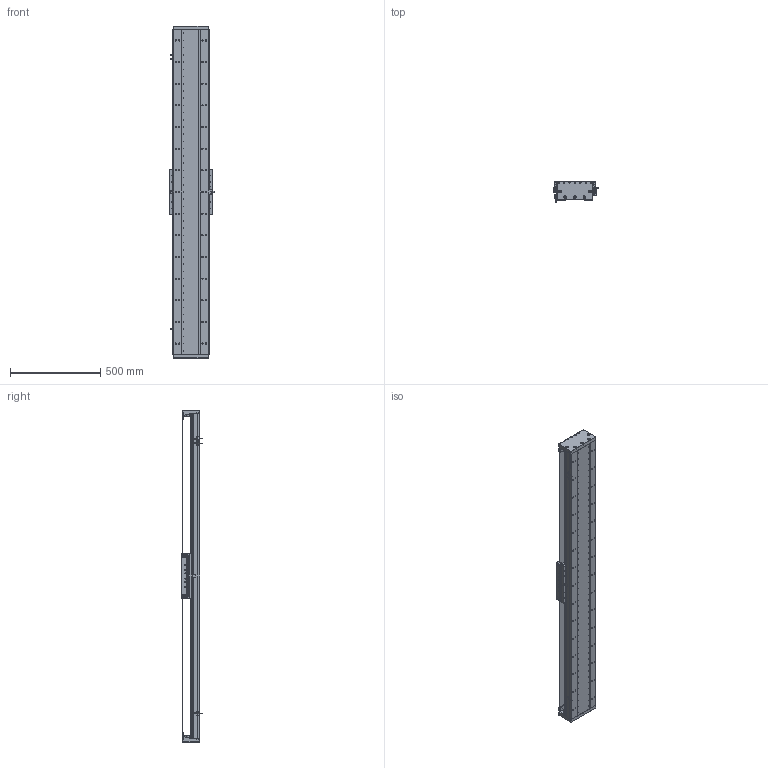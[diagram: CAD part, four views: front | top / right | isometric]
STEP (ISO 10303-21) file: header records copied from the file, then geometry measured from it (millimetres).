
FILE_DESCRIPTION (( 'STEP AP203' ), '1' );
FILE_NAME ('DA-C195-C3-T1500-C010-0.2 眻盄萇儂.STEP', '2025-08-15T01:38:06', ( '' ), ( '' ), 'SwSTEP 2.0', 'SolidWorks 2019', '' );
FILE_SCHEMA (( 'CONFIG_CONTROL_DESIGN' ));
Length unit declared in the file: millimetre
Products named in the file (15): PM-T45ㄗ侂狟ㄘ; 葩璃 DA95-GT-T-00; IU-CU195-L 菁釱絳寢; LMT黍杅芛; DA-C195-C3-T1500-C010-0.2 眻盄萇儂; DA95-HXJ-00 遣喳砎蝶; DA195詩湍嶺輸; DA195詩湍郪璃; DA195詩湍裔啣; DA165-GYP-00 光电感应片(默认); DA195詩湍菜輸; DA-C195-GD-DB-H-00 傷啣; IU-CU195-L-00 菁釱(L1800); CU195-C3賑輸-俋楷; MS200 棠掑喜S315-T240
Assembly tree (29 placements, depth 3):
  DA-C195-C3-T1500-C010-0.2 眻盄萇儂
    DA195詩湍郪璃
      DA195詩湍菜輸  x2
      DA195詩湍裔啣
      DA195詩湍嶺輸  x2
      DA95-HXJ-00 遣喳砎蝶  x8
      DA-C195-GD-DB-H-00 傷啣  x2
    IU-CU195-L 菁釱絳寢
      IU-CU195-L-00 菁釱(L1800)
      葩璃 DA95-GT-T-00  x4
    LMT黍杅芛
    MS200 棠掑喜S315-T240
    PM-T45ㄗ侂狟ㄘ  x3
    DA165-GYP-00 光电感应片(默认)
    CU195-C3賑輸-俋楷
Bounding box: 248 x 115.45 x 1840 mm (x, y, z)
Volume: 11505602.3 mm3; surface area: 3316474.7 mm2
Topology: 86 solids, 118 shells, 3994 faces, 10887 edges, 6817 vertices
Faces by surface type: cylinder 2042, plane 1350, cone 514, torus 52, sphere 36
Entity records: 121879 total; most frequent: CARTESIAN_POINT 30736, ORIENTED_EDGE 18690, DIRECTION 18582, EDGE_CURVE 9345, AXIS2_PLACEMENT_3D 6961, VERTEX_POINT 6019, VECTOR 4660, LINE 4660
